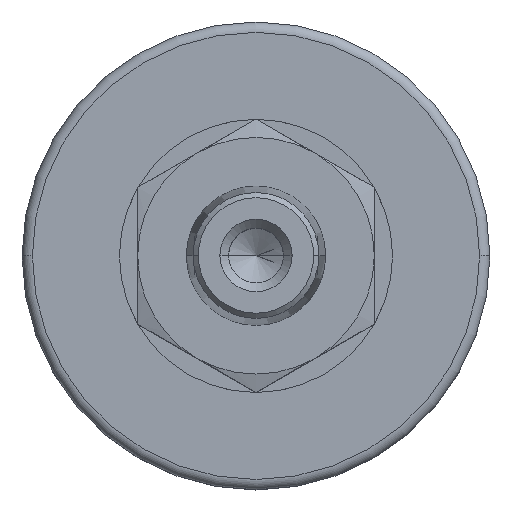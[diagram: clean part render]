
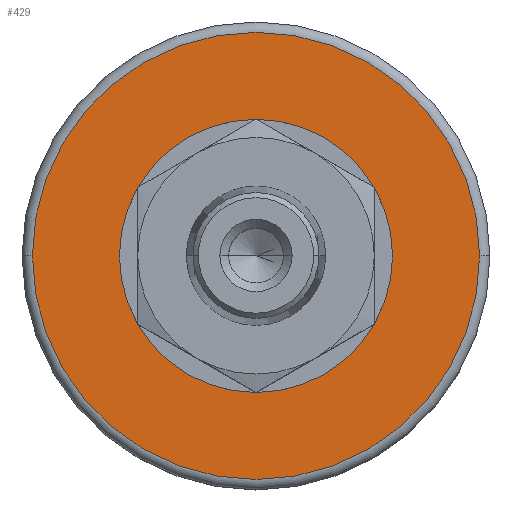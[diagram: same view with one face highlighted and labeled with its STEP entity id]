
A CAD part, top view. The second image highlights one B-rep face of the part: STEP entity #429.
In plain terms, the highlighted planar face has unit normal (0, 0, 1).
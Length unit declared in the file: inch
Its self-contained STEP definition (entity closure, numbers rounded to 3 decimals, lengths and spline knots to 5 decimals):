
#65 = VERTEX_POINT ( 'NONE', #621 ) ;
#145 = EDGE_CURVE ( 'NONE', #65, #147, #860, .T. ) ;
#147 = VERTEX_POINT ( 'NONE', #851 ) ;
#379 = EDGE_CURVE ( 'NONE', #406, #405, #1369, .T. ) ;
#398 = EDGE_CURVE ( 'NONE', #405, #406, #1197, .T. ) ;
#405 = VERTEX_POINT ( 'NONE', #1243 ) ;
#406 = VERTEX_POINT ( 'NONE', #1242 ) ;
#429 = ADVANCED_FACE ( 'NONE', ( #1588, #1587 ), #1594, .F. ) ;
#430 = EDGE_LOOP ( 'NONE', ( #431, #432 ) ) ;
#431 = ORIENTED_EDGE ( 'NONE', *, *, #398, .F. ) ;
#432 = ORIENTED_EDGE ( 'NONE', *, *, #379, .F. ) ;
#433 = EDGE_LOOP ( 'NONE', ( #434, #435 ) ) ;
#434 = ORIENTED_EDGE ( 'NONE', *, *, #145, .T. ) ;
#435 = ORIENTED_EDGE ( 'NONE', *, *, #436, .T. ) ;
#436 = EDGE_CURVE ( 'NONE', #147, #65, #1487, .T. ) ;
#621 = CARTESIAN_POINT ( 'NONE',  ( 0.65, 0., -0.74 ) ) ;
#851 = CARTESIAN_POINT ( 'NONE',  ( -0.65, 0., -0.74 ) ) ;
#856 = DIRECTION ( 'NONE',  ( 1., 0., 0. ) ) ;
#857 = DIRECTION ( 'NONE',  ( 0., 0., 1. ) ) ;
#858 = CARTESIAN_POINT ( 'NONE',  ( 0., 0., -0.74 ) ) ;
#859 = AXIS2_PLACEMENT_3D ( 'NONE', #858, #857, #856 ) ;
#860 = CIRCLE ( 'NONE', #859, 0.65 ) ;
#1191 = DIRECTION ( 'NONE',  ( 1., 0., 0. ) ) ;
#1192 = DIRECTION ( 'NONE',  ( 0., 0., 1. ) ) ;
#1193 = CARTESIAN_POINT ( 'NONE',  ( 0., 0., -0.74 ) ) ;
#1194 = AXIS2_PLACEMENT_3D ( 'NONE', #1193, #1192, #1191 ) ;
#1197 = CIRCLE ( 'NONE', #1194, 0.397 ) ;
#1242 = CARTESIAN_POINT ( 'NONE',  ( -0.397, 0., -0.74 ) ) ;
#1243 = CARTESIAN_POINT ( 'NONE',  ( 0.397, 0., -0.74 ) ) ;
#1365 = DIRECTION ( 'NONE',  ( 1., 0., 0. ) ) ;
#1366 = DIRECTION ( 'NONE',  ( 0., 0., 1. ) ) ;
#1367 = CARTESIAN_POINT ( 'NONE',  ( 0., 0., -0.74 ) ) ;
#1368 = AXIS2_PLACEMENT_3D ( 'NONE', #1367, #1366, #1365 ) ;
#1369 = CIRCLE ( 'NONE', #1368, 0.397 ) ;
#1483 = DIRECTION ( 'NONE',  ( 1., 0., 0. ) ) ;
#1484 = DIRECTION ( 'NONE',  ( 0., 0., 1. ) ) ;
#1485 = CARTESIAN_POINT ( 'NONE',  ( 0., 0., -0.74 ) ) ;
#1486 = AXIS2_PLACEMENT_3D ( 'NONE', #1485, #1484, #1483 ) ;
#1487 = CIRCLE ( 'NONE', #1486, 0.65 ) ;
#1583 = DIRECTION ( 'NONE',  ( -1., 0., 0. ) ) ;
#1584 = DIRECTION ( 'NONE',  ( 0., 0., -1. ) ) ;
#1585 = CARTESIAN_POINT ( 'NONE',  ( 0., 0.397, -0.74 ) ) ;
#1586 = AXIS2_PLACEMENT_3D ( 'NONE', #1585, #1584, #1583 ) ;
#1587 = FACE_OUTER_BOUND ( 'NONE', #433, .T. ) ;
#1588 = FACE_BOUND ( 'NONE', #430, .T. ) ;
#1594 = PLANE ( 'NONE',  #1586 ) ;
